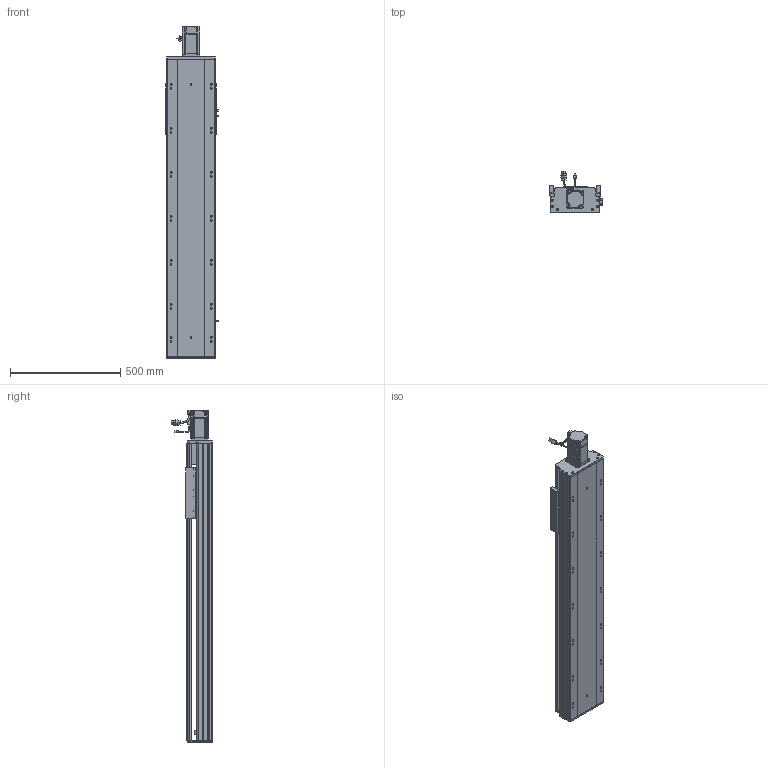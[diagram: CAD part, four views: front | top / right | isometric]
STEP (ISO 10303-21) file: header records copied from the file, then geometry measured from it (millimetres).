
FILE_DESCRIPTION (( 'STEP AP203' ), '1' );
FILE_NAME ('RY220-L2525-300-MK.SLDASM_950.step', '2022-07-04T02:57:50', ( '' ), ( '' ), 'SwSTEP 2.0', 'SolidWorks 2016', '' );
FILE_SCHEMA (( 'CONFIG_CONTROL_DESIGN' ));
Length unit declared in the file: millimetre
Products named in the file (12): RY220电机支撑座FK20（PCD90M6）; RY220-300-奻裔啣-MK_950; RY220菁釱MK-300_950; RY220-俋离672覜茼んえ; 覜茼ん672; 滅袉蝶18-15; 滅袉蝶18-12; RY220綴裔啣; RY220半封闭25-32螺母铝滑块; RY220ヶ裔啣; 怢湛750W_ECMA-CX0807ES; RY220-L2525-300-MK.SLDASM_950
Assembly tree (15 placements, depth 2):
  RY220-L2525-300-MK.SLDASM_950
    RY220菁釱MK-300_950
    RY220电机支撑座FK20（PCD90M6）
    怢湛750W_ECMA-CX0807ES
    滅袉蝶18-12  x2
    RY220ヶ裔啣
    RY220綴裔啣
    覜茼ん672  x3
    RY220半封闭25-32螺母铝滑块
    RY220-300-奻裔啣-MK_950
    RY220-俋离672覜茼んえ
    滅袉蝶18-15  x2
Bounding box: 238.7 x 187.27 x 1508.3 mm (x, y, z)
Volume: 12048850.4 mm3; surface area: 3326681.7 mm2
Topology: 16 solids, 16 shells, 2206 faces, 6114 edges, 3862 vertices
Faces by surface type: cylinder 992, plane 907, cone 245, bspline 36, sphere 16, torus 10
Entity records: 72530 total; most frequent: CARTESIAN_POINT 20647, ORIENTED_EDGE 10776, DIRECTION 10179, EDGE_CURVE 5388, AXIS2_PLACEMENT_3D 3579, VERTEX_POINT 3518, LINE 3021, VECTOR 3021
